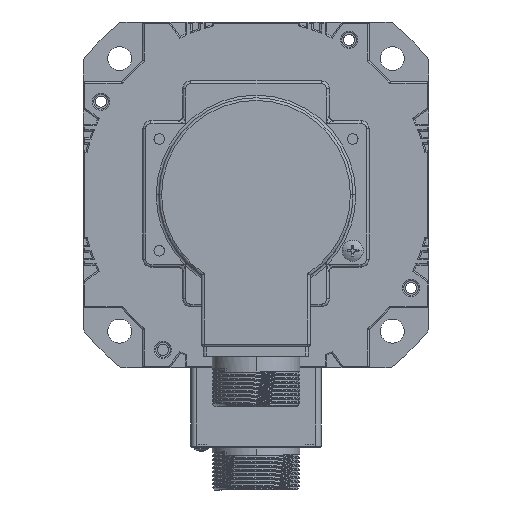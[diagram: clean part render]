
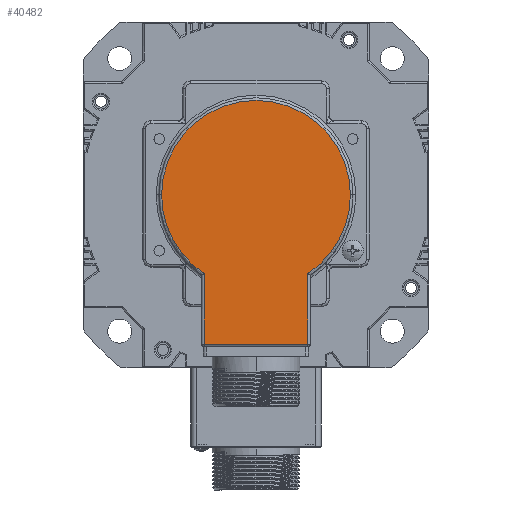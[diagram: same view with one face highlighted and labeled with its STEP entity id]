
A CAD part, front view. The second image highlights one B-rep face of the part: STEP entity #40482.
In plain terms, the highlighted planar face has unit normal (0, -1, 0) as drawn and (0, 0, -1) by its records, which use the part's own axes.
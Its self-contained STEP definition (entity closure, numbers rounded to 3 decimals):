
#541 = VERTEX_POINT ( 'NONE', #41984 ) ;
#2487 = DIRECTION ( 'NONE',  ( -1., 0., 0. ) ) ;
#3432 = EDGE_CURVE ( 'NONE', #30876, #23079, #25520, .T. ) ;
#4233 = DIRECTION ( 'NONE',  ( 0., 0., -1. ) ) ;
#9005 = DIRECTION ( 'NONE',  ( -1., 0., 0. ) ) ;
#10693 = DIRECTION ( 'NONE',  ( 0., 0., -1. ) ) ;
#11105 = DIRECTION ( 'NONE',  ( 0., 0., -1. ) ) ;
#14870 = ORIENTED_EDGE ( 'NONE', *, *, #69779, .T. ) ;
#16194 = EDGE_LOOP ( 'NONE', ( #43454, #48529, #14870, #66183, #18678, #34891 ) ) ;
#18624 = AXIS2_PLACEMENT_3D ( 'NONE', #48455, #11105, #65219 ) ;
#18678 = ORIENTED_EDGE ( 'NONE', *, *, #20015, .T. ) ;
#19527 = CARTESIAN_POINT ( 'NONE',  ( 35.5, 0., -33. ) ) ;
#19856 = CARTESIAN_POINT ( 'NONE',  ( 0., 0., -33. ) ) ;
#20015 = EDGE_CURVE ( 'NONE', #23079, #541, #56232, .T. ) ;
#21213 = VERTEX_POINT ( 'NONE', #38471 ) ;
#23079 = VERTEX_POINT ( 'NONE', #19527 ) ;
#25520 = CIRCLE ( 'NONE', #35567, 35.5 ) ;
#26292 = VECTOR ( 'NONE', #60565, 1000. ) ;
#26811 = LINE ( 'NONE', #28855, #62352 ) ;
#27694 = AXIS2_PLACEMENT_3D ( 'NONE', #48982, #10693, #53500 ) ;
#28647 = LINE ( 'NONE', #47395, #31147 ) ;
#28855 = CARTESIAN_POINT ( 'NONE',  ( 20.5, 56.15, -33. ) ) ;
#30876 = VERTEX_POINT ( 'NONE', #56422 ) ;
#31147 = VECTOR ( 'NONE', #46740, 1000. ) ;
#31453 = VERTEX_POINT ( 'NONE', #62642 ) ;
#32120 = CARTESIAN_POINT ( 'NONE',  ( -19.5, 56.15, -33. ) ) ;
#34773 = LINE ( 'NONE', #55394, #26292 ) ;
#34860 = DIRECTION ( 'NONE',  ( 0., 0., -1. ) ) ;
#34891 = ORIENTED_EDGE ( 'NONE', *, *, #56508, .T. ) ;
#35567 = AXIS2_PLACEMENT_3D ( 'NONE', #41002, #34860, #2487 ) ;
#38471 = CARTESIAN_POINT ( 'NONE',  ( 19.5, 56.15, -33. ) ) ;
#39119 = CIRCLE ( 'NONE', #27694, 35.5 ) ;
#40482 = ADVANCED_FACE ( 'NONE', ( #64414 ), #47018, .T. ) ;
#41002 = CARTESIAN_POINT ( 'NONE',  ( 0., 0., -33. ) ) ;
#41984 = CARTESIAN_POINT ( 'NONE',  ( -35.5, 0., -33. ) ) ;
#43454 = ORIENTED_EDGE ( 'NONE', *, *, #57591, .T. ) ;
#46740 = DIRECTION ( 'NONE',  ( 0., 1., 0. ) ) ;
#47018 = PLANE ( 'NONE',  #60423 ) ;
#47395 = CARTESIAN_POINT ( 'NONE',  ( -19.5, 57.15, -33. ) ) ;
#48455 = CARTESIAN_POINT ( 'NONE',  ( 0., 0., -33. ) ) ;
#48529 = ORIENTED_EDGE ( 'NONE', *, *, #52225, .T. ) ;
#48982 = CARTESIAN_POINT ( 'NONE',  ( 0., 0., -33. ) ) ;
#52225 = EDGE_CURVE ( 'NONE', #57275, #21213, #26811, .T. ) ;
#53500 = DIRECTION ( 'NONE',  ( -1., 0., 0. ) ) ;
#55394 = CARTESIAN_POINT ( 'NONE',  ( 19.5, 30.199, -33. ) ) ;
#55824 = DIRECTION ( 'NONE',  ( 1., 0., 0. ) ) ;
#56232 = CIRCLE ( 'NONE', #18624, 35.5 ) ;
#56422 = CARTESIAN_POINT ( 'NONE',  ( 19.5, 29.665, -33. ) ) ;
#56508 = EDGE_CURVE ( 'NONE', #541, #31453, #39119, .T. ) ;
#57275 = VERTEX_POINT ( 'NONE', #32120 ) ;
#57591 = EDGE_CURVE ( 'NONE', #31453, #57275, #28647, .T. ) ;
#60423 = AXIS2_PLACEMENT_3D ( 'NONE', #19856, #4233, #9005 ) ;
#60565 = DIRECTION ( 'NONE',  ( 0., -1., 0. ) ) ;
#62352 = VECTOR ( 'NONE', #55824, 1000. ) ;
#62642 = CARTESIAN_POINT ( 'NONE',  ( -19.5, 29.665, -33. ) ) ;
#64414 = FACE_OUTER_BOUND ( 'NONE', #16194, .T. ) ;
#65219 = DIRECTION ( 'NONE',  ( -1., 0., 0. ) ) ;
#66183 = ORIENTED_EDGE ( 'NONE', *, *, #3432, .T. ) ;
#69779 = EDGE_CURVE ( 'NONE', #21213, #30876, #34773, .T. ) ;
